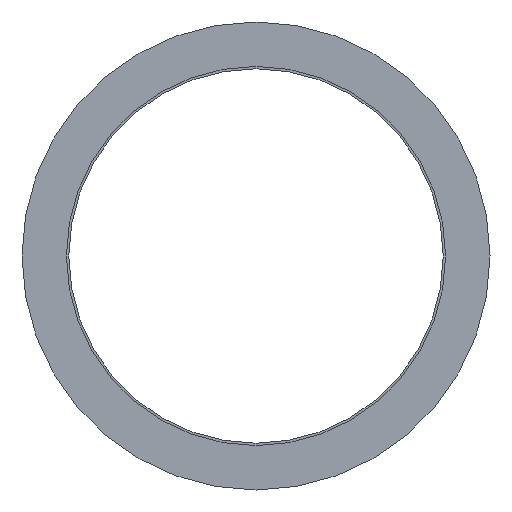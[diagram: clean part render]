
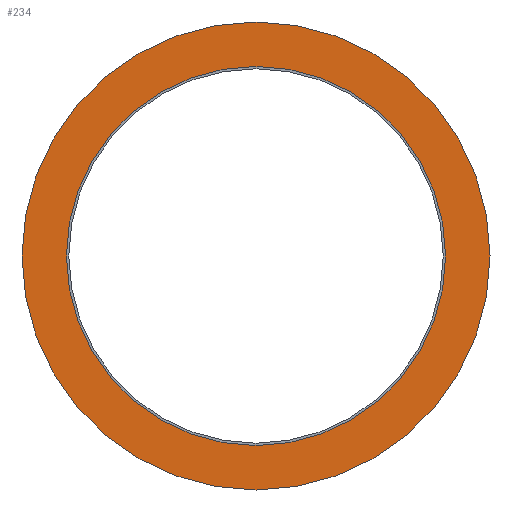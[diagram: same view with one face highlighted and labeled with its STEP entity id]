
A CAD part, left-side view. The second image highlights one B-rep face of the part: STEP entity #234.
In plain terms, the highlighted planar face has unit normal (-1, 0, 0).
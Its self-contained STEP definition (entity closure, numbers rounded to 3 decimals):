
#4 = VERTEX_POINT ( 'NONE', #174 ) ;
#9 = DIRECTION ( 'NONE',  ( 1., 0., 0. ) ) ;
#10 = EDGE_CURVE ( 'NONE', #40, #4, #229, .T. ) ;
#25 = AXIS2_PLACEMENT_3D ( 'NONE', #382, #9, #387 ) ;
#26 = ORIENTED_EDGE ( 'NONE', *, *, #117, .T. ) ;
#32 = AXIS2_PLACEMENT_3D ( 'NONE', #400, #97, #165 ) ;
#40 = VERTEX_POINT ( 'NONE', #206 ) ;
#43 = ORIENTED_EDGE ( 'NONE', *, *, #10, .F. ) ;
#46 = AXIS2_PLACEMENT_3D ( 'NONE', #107, #185, #104 ) ;
#69 = CIRCLE ( 'NONE', #308, 6.075 ) ;
#74 = EDGE_LOOP ( 'NONE', ( #43, #197 ) ) ;
#89 = EDGE_CURVE ( 'NONE', #398, #348, #69, .T. ) ;
#97 = DIRECTION ( 'NONE',  ( 1., 0., 0. ) ) ;
#104 = DIRECTION ( 'NONE',  ( 0., 0., -1. ) ) ;
#107 = CARTESIAN_POINT ( 'NONE',  ( -2.252, -0.038, 0. ) ) ;
#112 = CIRCLE ( 'NONE', #46, 7.5 ) ;
#117 = EDGE_CURVE ( 'NONE', #348, #398, #273, .T. ) ;
#150 = DIRECTION ( 'NONE',  ( 0., 0., -1. ) ) ;
#162 = DIRECTION ( 'NONE',  ( 1., 0., 0. ) ) ;
#165 = DIRECTION ( 'NONE',  ( 0., 0., -1. ) ) ;
#172 = ORIENTED_EDGE ( 'NONE', *, *, #89, .T. ) ;
#174 = CARTESIAN_POINT ( 'NONE',  ( -2.252, -0.038, 7.5 ) ) ;
#185 = DIRECTION ( 'NONE',  ( 1., 0., 0. ) ) ;
#188 = EDGE_CURVE ( 'NONE', #4, #40, #112, .T. ) ;
#189 = DIRECTION ( 'NONE',  ( -1., 0., 0. ) ) ;
#197 = ORIENTED_EDGE ( 'NONE', *, *, #188, .F. ) ;
#200 = AXIS2_PLACEMENT_3D ( 'NONE', #221, #189, #283 ) ;
#206 = CARTESIAN_POINT ( 'NONE',  ( -2.252, -0.038, -7.5 ) ) ;
#221 = CARTESIAN_POINT ( 'NONE',  ( -2.252, -0.038, 0. ) ) ;
#229 = CIRCLE ( 'NONE', #32, 7.5 ) ;
#234 = ADVANCED_FACE ( 'NONE', ( #304, #393 ), #249, .T. ) ;
#249 = PLANE ( 'NONE',  #200 ) ;
#264 = CARTESIAN_POINT ( 'NONE',  ( -2.252, -0.038, 6.075 ) ) ;
#273 = CIRCLE ( 'NONE', #25, 6.075 ) ;
#283 = DIRECTION ( 'NONE',  ( 0., 0., 1. ) ) ;
#304 = FACE_BOUND ( 'NONE', #390, .T. ) ;
#308 = AXIS2_PLACEMENT_3D ( 'NONE', #333, #162, #150 ) ;
#333 = CARTESIAN_POINT ( 'NONE',  ( -2.252, -0.038, 0. ) ) ;
#348 = VERTEX_POINT ( 'NONE', #357 ) ;
#357 = CARTESIAN_POINT ( 'NONE',  ( -2.252, -0.038, -6.075 ) ) ;
#382 = CARTESIAN_POINT ( 'NONE',  ( -2.252, -0.038, 0. ) ) ;
#387 = DIRECTION ( 'NONE',  ( 0., 0., -1. ) ) ;
#390 = EDGE_LOOP ( 'NONE', ( #26, #172 ) ) ;
#393 = FACE_OUTER_BOUND ( 'NONE', #74, .T. ) ;
#398 = VERTEX_POINT ( 'NONE', #264 ) ;
#400 = CARTESIAN_POINT ( 'NONE',  ( -2.252, -0.038, 0. ) ) ;
